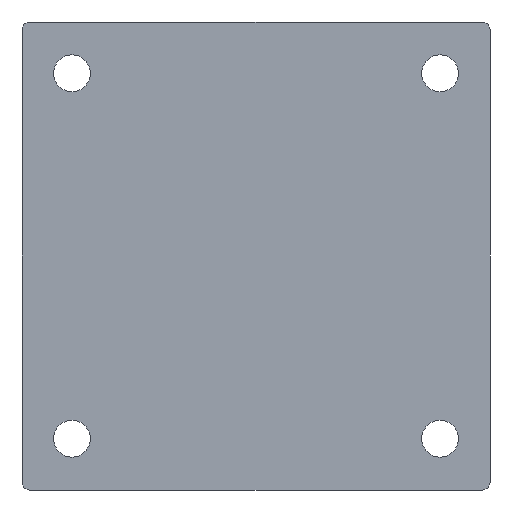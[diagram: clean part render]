
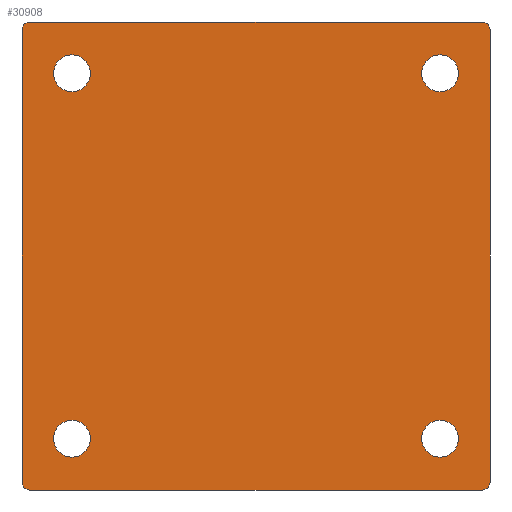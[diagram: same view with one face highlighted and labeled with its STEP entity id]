
A CAD part, front view. The second image highlights one B-rep face of the part: STEP entity #30908.
In plain terms, the highlighted planar face has unit normal (0, -1, 0).
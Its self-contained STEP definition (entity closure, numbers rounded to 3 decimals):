
#546 = DIRECTION ( 'NONE',  ( 0., -1., 0. ) ) ;
#696 = CIRCLE ( 'NONE', #14448, 7. ) ;
#1020 = VERTEX_POINT ( 'NONE', #7734 ) ;
#1214 = CARTESIAN_POINT ( 'NONE',  ( 157.636, 63.889, 62.894 ) ) ;
#1253 = CARTESIAN_POINT ( 'NONE',  ( 141.636, 63.889, 214.394 ) ) ;
#1915 = DIRECTION ( 'NONE',  ( 0., 0., -1. ) ) ;
#2044 = AXIS2_PLACEMENT_3D ( 'NONE', #20979, #26776, #36529 ) ;
#2580 = CARTESIAN_POINT ( 'NONE',  ( 1.636, 63.889, 221.394 ) ) ;
#2814 = DIRECTION ( 'NONE',  ( 0., 0., -1. ) ) ;
#2896 = EDGE_CURVE ( 'NONE', #12425, #7838, #28242, .T. ) ;
#2934 = VERTEX_POINT ( 'NONE', #26551 ) ;
#3357 = EDGE_CURVE ( 'NONE', #7876, #20952, #30557, .T. ) ;
#3367 = CIRCLE ( 'NONE', #13845, 3. ) ;
#3508 = DIRECTION ( 'NONE',  ( 0., 0., -1. ) ) ;
#3868 = ORIENTED_EDGE ( 'NONE', *, *, #25738, .F. ) ;
#4327 = ORIENTED_EDGE ( 'NONE', *, *, #39639, .F. ) ;
#4425 = ORIENTED_EDGE ( 'NONE', *, *, #27312, .F. ) ;
#4490 = DIRECTION ( 'NONE',  ( 0., 0., 1. ) ) ;
#4492 = ORIENTED_EDGE ( 'NONE', *, *, #9700, .T. ) ;
#4791 = AXIS2_PLACEMENT_3D ( 'NONE', #2580, #26627, #18126 ) ;
#5196 = DIRECTION ( 'NONE',  ( 0., 0., -1. ) ) ;
#5215 = CARTESIAN_POINT ( 'NONE',  ( 141.636, 63.889, 82.394 ) ) ;
#5275 = ORIENTED_EDGE ( 'NONE', *, *, #39265, .F. ) ;
#5384 = DIRECTION ( 'NONE',  ( 0., 0., -1. ) ) ;
#5389 = VECTOR ( 'NONE', #17383, 1000. ) ;
#6041 = EDGE_CURVE ( 'NONE', #29734, #29461, #3367, .T. ) ;
#6195 = DIRECTION ( 'NONE',  ( 0., -1., 0. ) ) ;
#6683 = PLANE ( 'NONE',  #36465 ) ;
#7009 = CARTESIAN_POINT ( 'NONE',  ( 157.636, 63.889, 237.894 ) ) ;
#7230 = AXIS2_PLACEMENT_3D ( 'NONE', #7009, #16391, #3508 ) ;
#7554 = AXIS2_PLACEMENT_3D ( 'NONE', #23816, #33185, #5196 ) ;
#7734 = CARTESIAN_POINT ( 'NONE',  ( 1.636, 63.889, 214.394 ) ) ;
#7838 = VERTEX_POINT ( 'NONE', #16567 ) ;
#7876 = VERTEX_POINT ( 'NONE', #22217 ) ;
#7971 = EDGE_LOOP ( 'NONE', ( #9247, #5275 ) ) ;
#9247 = ORIENTED_EDGE ( 'NONE', *, *, #33527, .F. ) ;
#9700 = EDGE_CURVE ( 'NONE', #23301, #2934, #39821, .T. ) ;
#10311 = EDGE_CURVE ( 'NONE', #13906, #13067, #696, .T. ) ;
#10399 = ORIENTED_EDGE ( 'NONE', *, *, #20527, .F. ) ;
#10827 = DIRECTION ( 'NONE',  ( 0., -1., 0. ) ) ;
#11634 = VERTEX_POINT ( 'NONE', #21496 ) ;
#11987 = AXIS2_PLACEMENT_3D ( 'NONE', #20246, #13720, #26225 ) ;
#12138 = ORIENTED_EDGE ( 'NONE', *, *, #3357, .T. ) ;
#12362 = AXIS2_PLACEMENT_3D ( 'NONE', #36724, #10827, #33846 ) ;
#12410 = FACE_BOUND ( 'NONE', #24801, .T. ) ;
#12425 = VERTEX_POINT ( 'NONE', #15412 ) ;
#12825 = FACE_BOUND ( 'NONE', #7971, .T. ) ;
#12840 = CARTESIAN_POINT ( 'NONE',  ( 1.636, 63.889, 89.394 ) ) ;
#13067 = VERTEX_POINT ( 'NONE', #12840 ) ;
#13720 = DIRECTION ( 'NONE',  ( 0., -1., 0. ) ) ;
#13845 = AXIS2_PLACEMENT_3D ( 'NONE', #20083, #17039, #29527 ) ;
#13906 = VERTEX_POINT ( 'NONE', #22864 ) ;
#14197 = CARTESIAN_POINT ( 'NONE',  ( -17.364, 63.889, 240.894 ) ) ;
#14448 = AXIS2_PLACEMENT_3D ( 'NONE', #29145, #35445, #32360 ) ;
#14517 = CIRCLE ( 'NONE', #28258, 7. ) ;
#14999 = DIRECTION ( 'NONE',  ( 1., 0., 0. ) ) ;
#15161 = AXIS2_PLACEMENT_3D ( 'NONE', #32016, #35911, #22848 ) ;
#15258 = CARTESIAN_POINT ( 'NONE',  ( 160.636, 63.889, 237.894 ) ) ;
#15412 = CARTESIAN_POINT ( 'NONE',  ( -14.364, 63.889, 240.894 ) ) ;
#16391 = DIRECTION ( 'NONE',  ( 0., -1., 0. ) ) ;
#16567 = CARTESIAN_POINT ( 'NONE',  ( -17.364, 63.889, 237.894 ) ) ;
#16655 = EDGE_CURVE ( 'NONE', #12425, #2934, #27327, .T. ) ;
#17039 = DIRECTION ( 'NONE',  ( 0., -1., 0. ) ) ;
#17383 = DIRECTION ( 'NONE',  ( 0., 0., -1. ) ) ;
#17665 = CIRCLE ( 'NONE', #35292, 7. ) ;
#17958 = ORIENTED_EDGE ( 'NONE', *, *, #24054, .F. ) ;
#17986 = EDGE_LOOP ( 'NONE', ( #30191, #19585 ) ) ;
#18126 = DIRECTION ( 'NONE',  ( 0., 0., -1. ) ) ;
#19137 = DIRECTION ( 'NONE',  ( 0., 0., -1. ) ) ;
#19585 = ORIENTED_EDGE ( 'NONE', *, *, #10311, .F. ) ;
#19922 = CARTESIAN_POINT ( 'NONE',  ( 141.636, 63.889, 75.394 ) ) ;
#20083 = CARTESIAN_POINT ( 'NONE',  ( 157.636, 63.889, 65.894 ) ) ;
#20246 = CARTESIAN_POINT ( 'NONE',  ( 141.636, 63.889, 82.394 ) ) ;
#20527 = EDGE_CURVE ( 'NONE', #40038, #26993, #22544, .T. ) ;
#20674 = ORIENTED_EDGE ( 'NONE', *, *, #6041, .T. ) ;
#20952 = VERTEX_POINT ( 'NONE', #38747 ) ;
#20979 = CARTESIAN_POINT ( 'NONE',  ( 1.636, 63.889, 82.394 ) ) ;
#21496 = CARTESIAN_POINT ( 'NONE',  ( 141.636, 63.889, 89.394 ) ) ;
#21572 = VERTEX_POINT ( 'NONE', #35066 ) ;
#22009 = CARTESIAN_POINT ( 'NONE',  ( -17.364, 63.889, 240.894 ) ) ;
#22217 = CARTESIAN_POINT ( 'NONE',  ( -17.364, 63.889, 65.894 ) ) ;
#22544 = CIRCLE ( 'NONE', #7554, 7. ) ;
#22848 = DIRECTION ( 'NONE',  ( 0., 0., -1. ) ) ;
#22864 = CARTESIAN_POINT ( 'NONE',  ( 1.636, 63.889, 75.394 ) ) ;
#22878 = EDGE_LOOP ( 'NONE', ( #3868, #20674, #39610, #4492, #27608, #24501, #4425, #12138 ) ) ;
#23301 = VERTEX_POINT ( 'NONE', #15258 ) ;
#23816 = CARTESIAN_POINT ( 'NONE',  ( 141.636, 63.889, 221.394 ) ) ;
#24054 = EDGE_CURVE ( 'NONE', #26993, #40038, #14517, .T. ) ;
#24187 = CARTESIAN_POINT ( 'NONE',  ( 141.636, 63.889, 221.394 ) ) ;
#24501 = ORIENTED_EDGE ( 'NONE', *, *, #2896, .T. ) ;
#24801 = EDGE_LOOP ( 'NONE', ( #4327, #27095 ) ) ;
#24860 = VECTOR ( 'NONE', #14999, 1000. ) ;
#24947 = CIRCLE ( 'NONE', #2044, 7. ) ;
#25683 = CIRCLE ( 'NONE', #4791, 7. ) ;
#25738 = EDGE_CURVE ( 'NONE', #29734, #20952, #32620, .T. ) ;
#26225 = DIRECTION ( 'NONE',  ( 0., 0., -1. ) ) ;
#26551 = CARTESIAN_POINT ( 'NONE',  ( 157.636, 63.889, 240.894 ) ) ;
#26616 = LINE ( 'NONE', #39210, #5389 ) ;
#26627 = DIRECTION ( 'NONE',  ( 0., -1., 0. ) ) ;
#26776 = DIRECTION ( 'NONE',  ( 0., -1., 0. ) ) ;
#26855 = VERTEX_POINT ( 'NONE', #19922 ) ;
#26993 = VERTEX_POINT ( 'NONE', #1253 ) ;
#27095 = ORIENTED_EDGE ( 'NONE', *, *, #29722, .F. ) ;
#27312 = EDGE_CURVE ( 'NONE', #7876, #7838, #35583, .T. ) ;
#27327 = LINE ( 'NONE', #14197, #24860 ) ;
#27608 = ORIENTED_EDGE ( 'NONE', *, *, #16655, .F. ) ;
#27611 = EDGE_CURVE ( 'NONE', #13067, #13906, #24947, .T. ) ;
#27808 = FACE_OUTER_BOUND ( 'NONE', #22878, .T. ) ;
#28242 = CIRCLE ( 'NONE', #15161, 3. ) ;
#28258 = AXIS2_PLACEMENT_3D ( 'NONE', #24187, #6195, #5384 ) ;
#28618 = AXIS2_PLACEMENT_3D ( 'NONE', #31647, #546, #2814 ) ;
#29145 = CARTESIAN_POINT ( 'NONE',  ( 1.636, 63.889, 82.394 ) ) ;
#29461 = VERTEX_POINT ( 'NONE', #32750 ) ;
#29527 = DIRECTION ( 'NONE',  ( 0., 0., -1. ) ) ;
#29722 = EDGE_CURVE ( 'NONE', #26855, #11634, #30270, .T. ) ;
#29734 = VERTEX_POINT ( 'NONE', #1214 ) ;
#29798 = EDGE_LOOP ( 'NONE', ( #10399, #17958 ) ) ;
#29812 = DIRECTION ( 'NONE',  ( -1., 0., 0. ) ) ;
#30021 = CIRCLE ( 'NONE', #12362, 7. ) ;
#30191 = ORIENTED_EDGE ( 'NONE', *, *, #27611, .F. ) ;
#30270 = CIRCLE ( 'NONE', #11987, 7. ) ;
#30557 = CIRCLE ( 'NONE', #28618, 3. ) ;
#30828 = FACE_BOUND ( 'NONE', #29798, .T. ) ;
#30908 = ADVANCED_FACE ( 'NONE', ( #30828, #12825, #40362, #12410, #27808 ), #6683, .T. ) ;
#31407 = DIRECTION ( 'NONE',  ( 0., -1., 0. ) ) ;
#31647 = CARTESIAN_POINT ( 'NONE',  ( -14.364, 63.889, 65.894 ) ) ;
#32016 = CARTESIAN_POINT ( 'NONE',  ( -14.364, 63.889, 237.894 ) ) ;
#32360 = DIRECTION ( 'NONE',  ( 0., 0., -1. ) ) ;
#32424 = CARTESIAN_POINT ( 'NONE',  ( -17.364, 63.889, 62.894 ) ) ;
#32488 = CARTESIAN_POINT ( 'NONE',  ( -17.364, 63.889, 240.894 ) ) ;
#32620 = LINE ( 'NONE', #32424, #36514 ) ;
#32750 = CARTESIAN_POINT ( 'NONE',  ( 160.636, 63.889, 65.894 ) ) ;
#33112 = EDGE_CURVE ( 'NONE', #23301, #29461, #26616, .T. ) ;
#33185 = DIRECTION ( 'NONE',  ( 0., -1., 0. ) ) ;
#33527 = EDGE_CURVE ( 'NONE', #21572, #1020, #25683, .T. ) ;
#33846 = DIRECTION ( 'NONE',  ( 0., 0., -1. ) ) ;
#35066 = CARTESIAN_POINT ( 'NONE',  ( 1.636, 63.889, 228.394 ) ) ;
#35292 = AXIS2_PLACEMENT_3D ( 'NONE', #5215, #36675, #1915 ) ;
#35445 = DIRECTION ( 'NONE',  ( 0., -1., 0. ) ) ;
#35583 = LINE ( 'NONE', #32488, #39221 ) ;
#35911 = DIRECTION ( 'NONE',  ( 0., -1., 0. ) ) ;
#36465 = AXIS2_PLACEMENT_3D ( 'NONE', #22009, #31407, #19137 ) ;
#36514 = VECTOR ( 'NONE', #29812, 1000. ) ;
#36529 = DIRECTION ( 'NONE',  ( 0., 0., -1. ) ) ;
#36675 = DIRECTION ( 'NONE',  ( 0., -1., 0. ) ) ;
#36724 = CARTESIAN_POINT ( 'NONE',  ( 1.636, 63.889, 221.394 ) ) ;
#37231 = CARTESIAN_POINT ( 'NONE',  ( 141.636, 63.889, 228.394 ) ) ;
#38747 = CARTESIAN_POINT ( 'NONE',  ( -14.364, 63.889, 62.894 ) ) ;
#39210 = CARTESIAN_POINT ( 'NONE',  ( 160.636, 63.889, 240.894 ) ) ;
#39221 = VECTOR ( 'NONE', #4490, 1000. ) ;
#39265 = EDGE_CURVE ( 'NONE', #1020, #21572, #30021, .T. ) ;
#39610 = ORIENTED_EDGE ( 'NONE', *, *, #33112, .F. ) ;
#39639 = EDGE_CURVE ( 'NONE', #11634, #26855, #17665, .T. ) ;
#39821 = CIRCLE ( 'NONE', #7230, 3. ) ;
#40038 = VERTEX_POINT ( 'NONE', #37231 ) ;
#40362 = FACE_BOUND ( 'NONE', #17986, .T. ) ;
